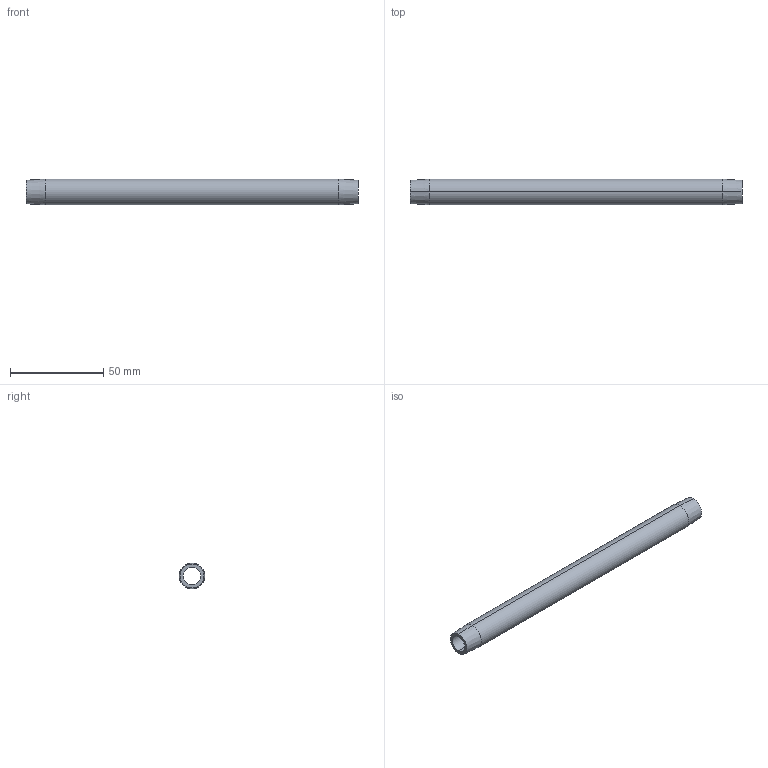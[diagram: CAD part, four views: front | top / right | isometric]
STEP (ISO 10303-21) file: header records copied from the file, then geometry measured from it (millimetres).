
FILE_DESCRIPTION (( 'STEP AP203' ), '1' );
FILE_NAME ('GPN25L7.step', '2020-08-19T08:01:42', ( 'Microsoft Corporation' ), ( 'MS' ), 'SwSTEP 2.0', 'SolidWorks 2018', '' );
FILE_SCHEMA (( 'CONFIG_CONTROL_DESIGN' ));
Length unit declared in the file: inch
Products named in the file (1): GPN25L7
Bounding box: 177.8 x 13.72 x 13.72 mm (x, y, z)
Volume: 14100.2 mm3; surface area: 12908.4 mm2
Topology: 1 solids, 1 shells, 10 faces, 20 edges, 12 vertices
Faces by surface type: cylinder 4, cone 4, plane 2
Entity records: 347 total; most frequent: DIRECTION 54, CARTESIAN_POINT 43, ORIENTED_EDGE 40, AXIS2_PLACEMENT_3D 23, EDGE_CURVE 20, EDGE_LOOP 12, VERTEX_POINT 12, CIRCLE 12
